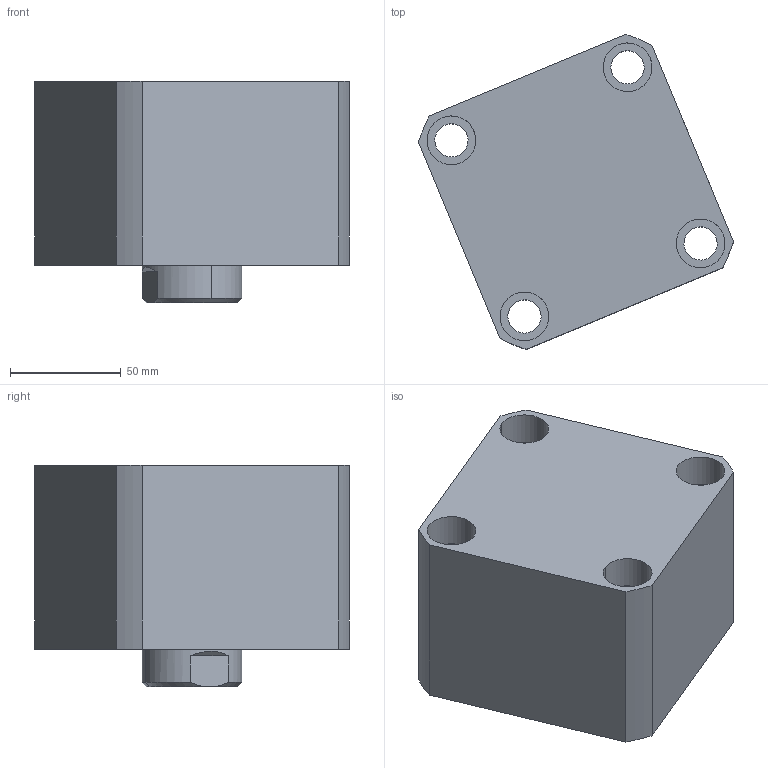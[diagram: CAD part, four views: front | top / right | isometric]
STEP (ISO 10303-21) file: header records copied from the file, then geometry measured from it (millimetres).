
FILE_DESCRIPTION (( 'STEP AP214' ), '1' );
FILE_NAME ('chtb-sd80x5n_asm.STEP', '2018-05-26T04:15:04', ( 'Windows' ), ( 'Microsoft' ), 'SwSTEP 2.0', 'SolidWorks 2015', '' );
FILE_SCHEMA (( 'AUTOMOTIVE_DESIGN' ));
Length unit declared in the file: millimetre
Products named in the file (4): CHTB-SD80X5NHSG; CHTB-SD80X5NBT; CHTB-SD80QG; chtb-sd80x5n_asm
Assembly tree (3 placements, depth 2):
  chtb-sd80x5n_asm
    CHTB-SD80QG
    CHTB-SD80X5NBT
    CHTB-SD80X5NHSG
Bounding box: 142.06 x 142.06 x 100 mm (x, y, z)
Volume: 948855.7 mm3; surface area: 154943.6 mm2
Topology: 3 solids, 3 shells, 192 faces, 510 edges, 341 vertices
Faces by surface type: cylinder 103, plane 37, cone 20, torus 18, bspline 14
Entity records: 15144 total; most frequent: CARTESIAN_POINT 10435, ORIENTED_EDGE 1008, DIRECTION 889, EDGE_CURVE 504, AXIS2_PLACEMENT_3D 374, VERTEX_POINT 341, EDGE_LOOP 229, FACE_OUTER_BOUND 192
